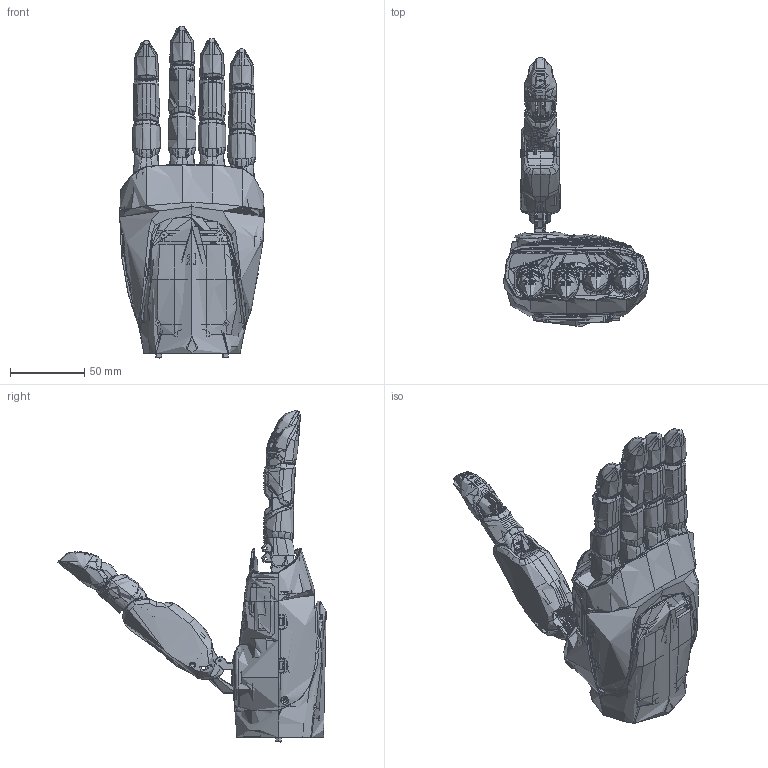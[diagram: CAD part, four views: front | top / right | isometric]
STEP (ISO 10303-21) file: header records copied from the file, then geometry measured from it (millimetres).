
FILE_DESCRIPTION((''),'2;1');
FILE_NAME('O12_T3_00_ASM','2025-11-25T17:51:30',('LiPeng'),(''),'CREO PARAMETRIC BY PTC INC, 2023073','CREO PARAMETRIC BY PTC INC, 2023073','');
FILE_SCHEMA(('CONFIG_CONTROL_DESIGN'));
Products named in the file (41): O12-T3_0-62-V20001; O12-T3_0-46--V20001; O12-T3_0-47-0001; O12-T3_0-45--V20001; T30001; T3V20001_ASM; O12-T3_0-9-10001; O12-T3_0-10-20001; V20001_ASM; O12-T3_0-12-V3000; O12-T3_0-03--0001; O12-T3_0-03--0002; O12-T3_0-14--0001; O12-T3_0-17--0001; O12-T3_0-17-0001; T30002; O12-T3_0-11-V20001; 072300_ASM_4_ASM; T308010001_ASM; _AF2000_ASM; O12-T3_0-01-0002; V30001_ASM; O12-T3_0-35--V20001; O12-T3_0-34--V20001; O12-T3_0-7-10001; 072300_ASM_4_1_ASM; T30801_AF4_ASM; O12-T3_0-8-20001; _AF000_ASM; T30801_AF2_ASM; _AF00002_ASM; T30801_AF3_ASM; _AF10001_ASM; PCB0001; O12-T3_0-PCB0001; O12-T3_0-04-V20002; O12-T3_0-05-V40001; O12-T3_0-06-_R_V30001; O12-T3_0-12-_R_V40001; T30003_ASM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
Assembly tree (51 placements, depth 6):
  O12_T3_00_ASM
    O12-T3_0-62-V20001
    V20001_ASM
      O12-T3_0-46--V20001
      O12-T3_0-47-0001
      O12-T3_0-45--V20001
      T3V20001_ASM
        T30001
      O12-T3_0-9-10001
      O12-T3_0-10-20001
    V30001_ASM
      O12-T3_0-12-V3000
      _AF2000_ASM
        O12-T3_0-03--0001
        O12-T3_0-03--0002
        O12-T3_0-14--0001
        O12-T3_0-17--0001
        O12-T3_0-17-0001
        T308010001_ASM
          072300_ASM_4_ASM
            T30002
            O12-T3_0-11-V20001
      O12-T3_0-01-0002
    _AF000_ASM
      O12-T3_0-35--V20001
      O12-T3_0-34--V20001
      O12-T3_0-7-10001
      T30801_AF4_ASM
        072300_ASM_4_1_ASM
          T30001
      O12-T3_0-8-20001
    _AF00002_ASM
      O12-T3_0-35--V20001
      O12-T3_0-34--V20001
      O12-T3_0-7-10001
      T30801_AF2_ASM
        072300_ASM_4_1_ASM
          T30001
      O12-T3_0-8-20001
    _AF10001_ASM
      O12-T3_0-35--V20001
      O12-T3_0-34--V20001
      O12-T3_0-7-10001
      T30801_AF3_ASM
        072300_ASM_4_1_ASM
          T30001
      O12-T3_0-8-20001
    PCB0001
    O12-T3_0-PCB0001
    T30003_ASM
      O12-T3_0-04-V20002
      O12-T3_0-05-V40001
      O12-T3_0-06-_R_V30001
      O12-T3_0-12-_R_V40001
Bounding box: 97.39 x 180.81 x 223.68 mm (x, y, z)
Topology: 40 solids, 46 shells, 9152 faces, 24907 edges, 15901 vertices
Faces by surface type: bspline 3921, cylinder 2211, plane 1848, extrusion 598, torus 349, cone 165, sphere 51, revolution 9
Entity records: 386163 total; most frequent: CARTESIAN_POINT 242025, ORIENTED_EDGE 36024, DIRECTION 19625, EDGE_CURVE 18012, VERTEX_POINT 11592, B_SPLINE_CURVE_WITH_KNOTS 9707, EDGE_LOOP 7006, AXIS2_PLACEMENT_3D 6667
